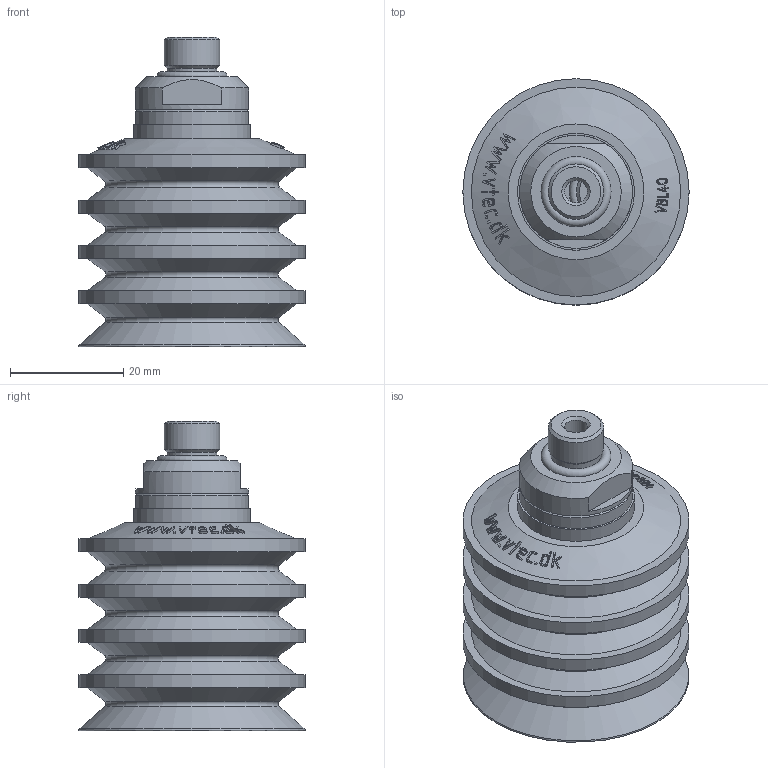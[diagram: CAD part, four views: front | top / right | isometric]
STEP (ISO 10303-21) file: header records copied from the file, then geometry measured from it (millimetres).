
FILE_DESCRIPTION( ( 'STEP AP203' ), '1' );
FILE_NAME( 'C:/撲啗紫賊-02/3D-蘋驍煎斜/Vacuum Pad/VBL series/VBL40-18M.stp', '2006-04-24T11:51:35', ( ' ' ), ( ' ' ), 'XStep 1.0', ' ', ' ' );
FILE_SCHEMA( ( 'CONFIG_CONTROL_DESIGN) ( )' ) );
Length unit declared in the file: metre
Products named in the file (3): Assem1; 1; 2
Bounding box: 40 x 40 x 54.8 mm (x, y, z)
Volume: 21196.9 mm3; surface area: 33626.3 mm2
Topology: 4 solids, 4 shells, 478 faces, 1114 edges, 724 vertices
Faces by surface type: bspline 276, cone 96, plane 56, cylinder 38, torus 12
Full cylindrical faces by diameter (mm): 4 x2, 6.2 x2, 6.5 x2, 7 x2, 7.9 x2, 8 x4, 8.8 x2, 9 x2, 9.8 x2, 10 x2, 11 x2, 20 x4, 20.679 x2, 40 x8
Entity records: 11135 total; most frequent: CARTESIAN_POINT 6769, ORIENTED_EDGE 998, EDGE_CURVE 499, DIRECTION 451, VERTEX_POINT 359, EDGE_LOOP 338, B_SPLINE_CURVE_WITH_KNOTS 335, FACE_OUTER_BOUND 266
